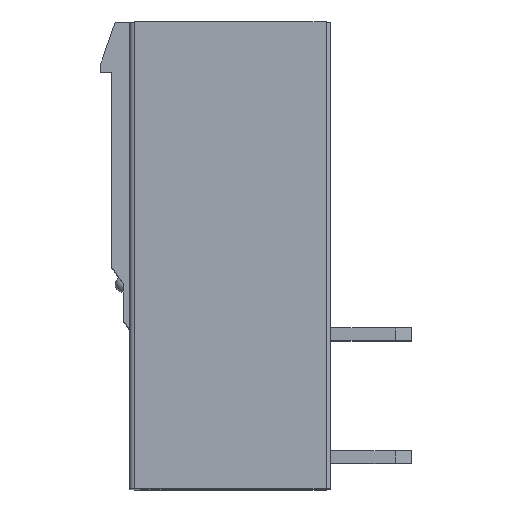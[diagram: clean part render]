
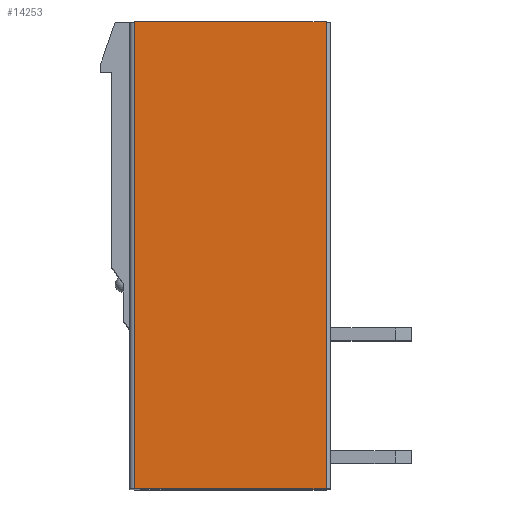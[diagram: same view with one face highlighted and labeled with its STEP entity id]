
A CAD part, top view. The second image highlights one B-rep face of the part: STEP entity #14253.
In plain terms, the highlighted planar face has unit normal (0, 0, 1).
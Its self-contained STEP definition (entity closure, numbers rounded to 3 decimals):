
#2632=DIRECTION('',(0.,-1.,0.));
#2633=VECTOR('',#2632,29.);
#2634=CARTESIAN_POINT('',(2.1,29.,-6.81));
#2635=LINE('',#2634,#2633);
#2636=DIRECTION('',(-1.,0.,0.));
#2637=VECTOR('',#2636,11.9);
#2638=CARTESIAN_POINT('',(14.,0.,-6.81));
#2639=LINE('',#2638,#2637);
#2640=DIRECTION('',(1.,0.,0.));
#2641=VECTOR('',#2640,11.9);
#2642=CARTESIAN_POINT('',(2.1,29.,-6.81));
#2643=LINE('',#2642,#2641);
#2648=DIRECTION('',(0.,1.,0.));
#2649=VECTOR('',#2648,29.);
#2650=CARTESIAN_POINT('',(14.,0.,-6.81));
#2651=LINE('',#2650,#2649);
#8409=CARTESIAN_POINT('',(14.,29.,-6.81));
#8410=VERTEX_POINT('',#8409);
#8411=CARTESIAN_POINT('',(2.1,29.,-6.81));
#8412=VERTEX_POINT('',#8411);
#8687=CARTESIAN_POINT('',(2.1,0.,-6.81));
#8688=VERTEX_POINT('',#8687);
#8689=CARTESIAN_POINT('',(14.,0.,-6.81));
#8690=VERTEX_POINT('',#8689);
#14241=CARTESIAN_POINT('',(7.6,14.5,-6.81));
#14242=DIRECTION('',(0.,0.,1.));
#14243=DIRECTION('',(0.,-1.,0.));
#14244=AXIS2_PLACEMENT_3D('',#14241,#14242,#14243);
#14245=PLANE('',#14244);
#14247=ORIENTED_EDGE('',*,*,#14246,.F.);
#14248=ORIENTED_EDGE('',*,*,#14154,.T.);
#14249=ORIENTED_EDGE('',*,*,#14236,.F.);
#14250=ORIENTED_EDGE('',*,*,#12648,.T.);
#14251=EDGE_LOOP('',(#14247,#14248,#14249,#14250));
#14252=FACE_OUTER_BOUND('',#14251,.F.);
#14253=ADVANCED_FACE('',(#14252),#14245,.T.);
#12648=EDGE_CURVE('',#8412,#8410,#2643,.T.);
#14154=EDGE_CURVE('',#8690,#8688,#2639,.T.);
#14236=EDGE_CURVE('',#8412,#8688,#2635,.T.);
#14246=EDGE_CURVE('',#8690,#8410,#2651,.T.);
